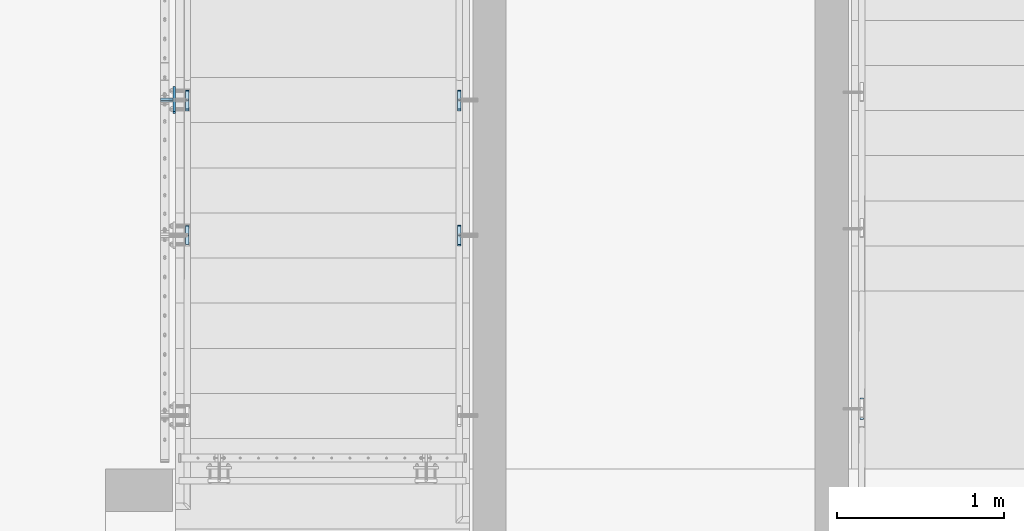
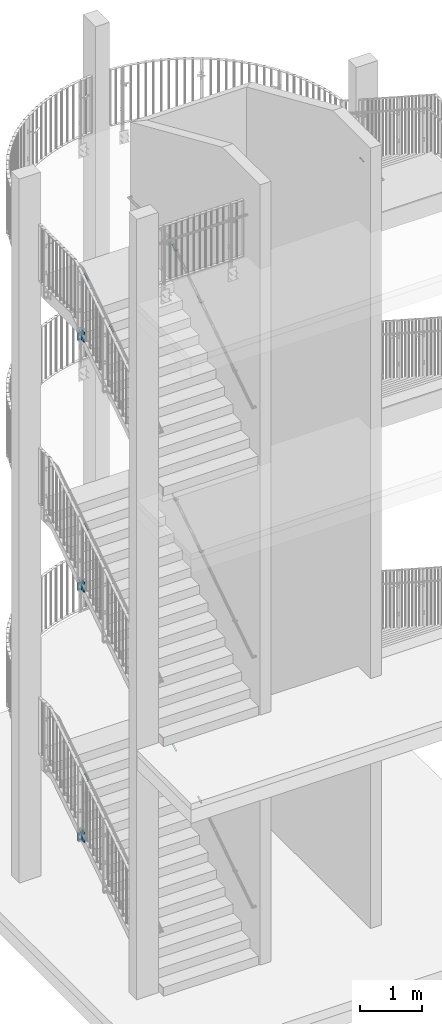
# One storey, part 109 of 296: 17 plates, 29 openings.
"""IFC2X3 building model written with IfcOpenShell, lengths in millimetres."""

from ifc_helpers import new_model, entity, si_unit, converted_unit, frame, frame_2d, origin, origin_with_axes, origin_2d_with_axis, place, context, project, spatial, polyline, circle, outline, extrude, material, layer, layer_set, element, save


model = new_model("IFC2X3")

# Units and contexts
model_context = context("Model", 3, precision=1e-09, world=origin_with_axes())
ifc_project = project(units=[si_unit("LENGTHUNIT", "METRE", prefix="MILLI"), si_unit("AREAUNIT", "SQUARE_METRE"), si_unit("VOLUMEUNIT", "CUBIC_METRE"), converted_unit("PLANEANGLEUNIT", "DEGREE", entity("IfcPlaneAngleMeasure", 0.01745329), si_unit("PLANEANGLEUNIT", "RADIAN"), dimensions=[0, 0, 0, 0, 0, 0, 0])], contexts=[model_context])

# Site, building, storey
site_placement = place(None, origin_with_axes())
site = spatial("IfcSite", under=ifc_project, at=site_placement, Name="TZD-S?d | Treppenhausgel?nder", CompositionType="ELEMENT")
building_placement = place(site_placement, origin_with_axes())
building = spatial("IfcBuilding", under=site, at=building_placement, Name="Struktur 1", CompositionType="ELEMENT")
storey_placement = place(building_placement, origin_with_axes())
storey = spatial("IfcBuildingStorey", under=building, at=storey_placement, Name="Default Storey", CompositionType="ELEMENT", Elevation=0.0)

# Plate, opening
ifc_material = material(Name="S235JR")
ifc_layer_1 = layer(ifc_material, 10.0)
ifc_layer_set_1 = layer_set([ifc_layer_1], Name="S235JR")
plate_1_placement = place(None, frame((1720.0, -2370.0, 7086.10126979), z_axis=(0.0, 0.542183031, -0.840260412), x_axis=(0.0, -0.840260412, -0.542183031)))
plate_1 = element("IfcPlate", 1, at=plate_1_placement, inside=storey, material=ifc_layer_set_1, Name="Girder", ObjectType="Girder", context=model_context, shape_type="SweptSolid", body=[
    extrude(outline(polyline([(-65.0, -10.0), (65.0, -10.0), (65.0, 10.0), (-65.0, 10.0), (-65.0, -10.0)])), origin_with_axes(), (0.0, 0.0, -1.0), 10.0),
])
opening_1_placement = place(plate_1_placement, frame((1.5e-08, -5.001000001, 0.499999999), z_axis=(0.0, 0.0, 1.0), x_axis=(1.0, 0.0, 0.0)))
element("IfcOpeningElement", 2, at=opening_1_placement, cuts=plate_1, ObjectType="Opening", context=model_context, shape_type="SweptSolid", body=[
    extrude(circle(Radius=5.001, at=frame_2d((0.0, 5.001), x_axis=(1.0, 0.0))), origin(), (0.0, 0.0, -1.0), 11.0),
])

plate_2_placement = place(None, frame((1720.0, -1560.0, 7608.75859016), z_axis=(0.0, 0.542183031, -0.840260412), x_axis=(0.0, -0.840260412, -0.542183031)))
plate_2 = element("IfcPlate", 3, at=plate_2_placement, inside=storey, material=ifc_layer_set_1, Name="Girder", ObjectType="Girder", context=model_context, shape_type="SweptSolid", body=[
    extrude(outline(polyline([(-65.0, -10.0), (65.0, -10.0), (65.0, 10.0), (-65.0, 10.0), (-65.0, -10.0)])), origin_with_axes(), (0.0, 0.0, -1.0), 10.0),
])
opening_2_placement = place(plate_2_placement, frame((6e-09, -5.001, 0.499999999), z_axis=(0.0, 0.0, 1.0), x_axis=(1.0, 0.0, 0.0)))
element("IfcOpeningElement", 4, at=opening_2_placement, cuts=plate_2, ObjectType="Opening", context=model_context, shape_type="SweptSolid", body=[
    extrude(circle(Radius=5.001, at=frame_2d((0.0, 5.001), x_axis=(1.0, 0.0))), origin(), (0.0, 0.0, -1.0), 11.0),
])

plate_3_placement = place(None, frame((1720.0, -2380.0, 2183.202427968), z_axis=(0.0, 0.544258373, -0.83891765), x_axis=(0.0, -0.83891765, -0.544258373)))
plate_3 = element("IfcPlate", 5, at=plate_3_placement, inside=storey, material=ifc_layer_set_1, Name="Girder", ObjectType="Girder", context=model_context, shape_type="SweptSolid", body=[
    extrude(outline(polyline([(-65.0, -10.0), (65.0, -10.0), (65.0, 10.0), (-65.0, 10.0), (-65.0, -10.0)])), origin_with_axes(), (0.0, 0.0, -1.0), 10.0),
])
opening_3_placement = place(plate_3_placement, frame((1e-09, -5.001, 0.5), z_axis=(0.0, 0.0, 1.0), x_axis=(1.0, 0.0, 0.0)))
element("IfcOpeningElement", 6, at=opening_3_placement, cuts=plate_3, ObjectType="Opening", context=model_context, shape_type="SweptSolid", body=[
    extrude(circle(Radius=5.001, at=frame_2d((0.0, 5.001), x_axis=(1.0, 0.0))), origin(), (0.0, 0.0, -1.0), 11.0),
])

plate_4_placement = place(None, frame((1720.0, -1570.0, 2708.700112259), z_axis=(0.0, 0.544258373, -0.83891765), x_axis=(0.0, -0.83891765, -0.544258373)))
plate_4 = element("IfcPlate", 7, at=plate_4_placement, inside=storey, material=ifc_layer_set_1, Name="Girder", ObjectType="Girder", context=model_context, shape_type="SweptSolid", body=[
    extrude(outline(polyline([(-65.0, -10.0), (65.0, -10.0), (65.0, 10.0), (-65.0, 10.0), (-65.0, -10.0)])), origin_with_axes(), (0.0, 0.0, -1.0), 10.0),
])
opening_4_placement = place(plate_4_placement, frame((0.0, -5.001, 0.499999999), z_axis=(0.0, 0.0, 1.0), x_axis=(1.0, 0.0, 0.0)))
element("IfcOpeningElement", 8, at=opening_4_placement, cuts=plate_4, ObjectType="Opening", context=model_context, shape_type="SweptSolid", body=[
    extrude(circle(Radius=5.001, at=frame_2d((0.0, 5.001), x_axis=(1.0, 0.0))), origin(), (0.0, 0.0, -1.0), 11.0),
])

plate_5_placement = place(None, frame((1720.0, -2370.0, 11980.404625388), z_axis=(0.0, 0.543478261, -0.839423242), x_axis=(0.0, -0.839423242, -0.543478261)))
plate_5 = element("IfcPlate", 9, at=plate_5_placement, inside=storey, material=ifc_layer_set_1, Name="Girder", ObjectType="Girder", context=model_context, shape_type="SweptSolid", body=[
    extrude(outline(polyline([(-65.0, -10.0), (65.0, -10.0), (65.0, 10.0), (-65.0, 10.0), (-65.0, -10.0)])), origin_with_axes(), (0.0, 0.0, -1.0), 10.0),
])
opening_5_placement = place(plate_5_placement, frame((-1.01e-07, -5.000999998, 0.500000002), z_axis=(0.0, 0.0, 1.0), x_axis=(1.0, 0.0, 0.0)))
element("IfcOpeningElement", 10, at=opening_5_placement, cuts=plate_5, ObjectType="Opening", context=model_context, shape_type="SweptSolid", body=[
    extrude(circle(Radius=5.001, at=frame_2d((0.0, 5.001), x_axis=(1.0, 0.0))), origin(), (0.0, 0.0, -1.0), 11.0),
])

plate_6_placement = place(None, frame((1720.0, -1560.0, 12504.833029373), z_axis=(0.0, 0.543478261, -0.839423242), x_axis=(0.0, -0.839423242, -0.543478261)))
plate_6 = element("IfcPlate", 11, at=plate_6_placement, inside=storey, material=ifc_layer_set_1, Name="Girder", ObjectType="Girder", context=model_context, shape_type="SweptSolid", body=[
    extrude(outline(polyline([(-65.0, -10.0), (65.0, -10.0), (65.0, 10.0), (-65.0, 10.0), (-65.0, -10.0)])), origin_with_axes(), (0.0, 0.0, -1.0), 10.0),
])
opening_6_placement = place(plate_6_placement, frame((-6.8e-08, -5.000999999, 0.500000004), z_axis=(0.0, 0.0, 1.0), x_axis=(1.0, 0.0, 0.0)))
element("IfcOpeningElement", 12, at=opening_6_placement, cuts=plate_6, ObjectType="Opening", context=model_context, shape_type="SweptSolid", body=[
    extrude(circle(Radius=5.001, at=frame_2d((0.0, 5.001), x_axis=(1.0, 0.0))), origin(), (0.0, 0.0, -1.0), 11.0),
])

plate_7_placement = place(None, frame((4129.999, -3415.0, 14510.0), z_axis=(0.0, 0.0, 1.0), x_axis=(0.0, -1.0, 0.0)))
plate_7 = element("IfcPlate", 13, at=plate_7_placement, inside=storey, material=ifc_layer_set_1, Name="Girder", ObjectType="Girder", context=model_context, shape_type="SweptSolid", body=[
    extrude(outline(polyline([(-65.0, -10.0), (65.0, -10.0), (65.0, 10.0), (-65.0, 10.0), (-65.0, -10.0)])), origin_with_axes(), (0.0, 0.0, 1.0), 10.0),
])
opening_7_placement = place(plate_7_placement, frame((-5.605e-06, 5.001009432, -0.5), z_axis=(0.0, 0.0, -1.0), x_axis=(-1.0, 0.0, 0.0)))
element("IfcOpeningElement", 14, at=opening_7_placement, cuts=plate_7, ObjectType="Opening", context=model_context, shape_type="SweptSolid", body=[
    extrude(circle(Radius=5.001, at=frame_2d((0.0, -5.001), x_axis=(1.0, 0.0))), origin(), (0.0, 0.0, -1.0), 11.0),
])

# Plate, openings
ifc_layer_2 = layer(ifc_material, 15.0)
ifc_layer_set_2 = layer_set([ifc_layer_2], Name="S235JR")
plate_8_placement = place(None, frame((20.0, -1560.0, 11389.999), z_axis=(-1.0, 0.0, 0.0), x_axis=(0.0, -1.0, 0.0)))
plate_8 = element("IfcPlate", 15, at=plate_8_placement, inside=storey, material=ifc_layer_set_2, Name="Girder", ObjectType="Girder", context=model_context, shape_type="SweptSolid", body=[
    extrude(outline(polyline([(-75.0, -100.0), (75.0, -100.0), (75.0, 100.0), (-75.0, 100.0), (-75.0, -100.0)])), origin_with_axes(), (0.0, 0.0, 1.0), 15.0),
])
opening_8_placement = place(plate_8_placement, frame((0.0, 0.0, -0.5), z_axis=(0.0, 0.0, 1.0), x_axis=(1.0, 0.0, 0.0)))
element("IfcOpeningElement", 16, at=opening_8_placement, cuts=plate_8, ObjectType="Opening", context=model_context, shape_type="SweptSolid", body=[
    extrude(circle(Radius=7.001, at=frame_2d((55.0, 55.0), x_axis=(1.0, 0.0))), origin(), (0.0, 0.0, 1.0), 16.0),
])
opening_9_placement = place(plate_8_placement, frame((0.0, 0.0, -0.5), z_axis=(0.0, 0.0, 1.0), x_axis=(1.0, 0.0, 0.0)))
element("IfcOpeningElement", 17, at=opening_9_placement, cuts=plate_8, ObjectType="Opening", context=model_context, shape_type="SweptSolid", body=[
    extrude(circle(Radius=7.001, at=frame_2d((-55.0, 55.0), x_axis=(1.0, 0.0))), origin(), (0.0, 0.0, 1.0), 16.0),
])
opening_10_placement = place(plate_8_placement, frame((0.0, 0.0, -0.5), z_axis=(0.0, 0.0, 1.0), x_axis=(1.0, 0.0, 0.0)))
element("IfcOpeningElement", 18, at=opening_10_placement, cuts=plate_8, ObjectType="Opening", context=model_context, shape_type="SweptSolid", body=[
    extrude(circle(Radius=7.001, at=frame_2d((55.0, -55.0), x_axis=(1.0, 0.0))), origin(), (0.0, 0.0, 1.0), 16.0),
])
opening_11_placement = place(plate_8_placement, frame((0.0, 0.0, -0.5), z_axis=(0.0, 0.0, 1.0), x_axis=(1.0, 0.0, 0.0)))
element("IfcOpeningElement", 19, at=opening_11_placement, cuts=plate_8, ObjectType="Opening", context=model_context, shape_type="SweptSolid", body=[
    extrude(circle(Radius=7.001, at=frame_2d((-55.0, -55.0), x_axis=(1.0, 0.0))), origin(), (0.0, 0.0, 1.0), 16.0),
])

plate_9_placement = place(None, frame((-32.5, -1552.5, 11389.999), z_axis=(0.0, -1.0, 0.0), x_axis=(1.0, 0.0, 0.0)))
plate_9 = element("IfcPlate", 20, at=plate_9_placement, inside=storey, material=ifc_layer_set_2, Name="Girder", ObjectType="Girder", context=model_context, shape_type="SweptSolid", body=[
    extrude(outline(polyline([(-37.5, -75.0), (37.5, -75.0), (37.5, 75.0), (-37.5, 75.0), (-37.5, -75.0)])), origin_with_axes(), (0.0, 0.0, 1.0), 15.0),
])
opening_12_placement = place(plate_9_placement, frame((-12.5, 0.0, -0.5), z_axis=(0.0, 0.0, 1.0), x_axis=(1.0, 0.0, 0.0)))
element("IfcOpeningElement", 21, at=opening_12_placement, cuts=plate_9, ObjectType="Opening", context=model_context, shape_type="SweptSolid", body=[
    extrude(circle(Radius=7.001, at=frame_2d((0.0, 50.0), x_axis=(1.0, 0.0))), origin(), (0.0, 0.0, 1.0), 16.0),
])
opening_13_placement = place(plate_9_placement, frame((-12.5, 0.0, -0.5), z_axis=(0.0, 0.0, 1.0), x_axis=(1.0, 0.0, 0.0)))
element("IfcOpeningElement", 22, at=opening_13_placement, cuts=plate_9, ObjectType="Opening", context=model_context, shape_type="SweptSolid", body=[
    extrude(circle(Radius=7.001, at=frame_2d((0.0, -50.0), x_axis=(1.0, 0.0))), origin(), (0.0, 0.0, 1.0), 16.0),
])

# Plate, opening
plate_10_placement = place(None, frame((90.0, -1560.0, 12504.833029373), z_axis=(0.0, -0.543478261, 0.839423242), x_axis=(0.0, -0.839423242, -0.543478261)))
plate_10 = element("IfcPlate", 23, at=plate_10_placement, inside=storey, material=ifc_layer_set_1, Name="Girder", ObjectType="Girder", context=model_context, shape_type="SweptSolid", body=[
    extrude(outline(polyline([(-65.0, -10.0), (65.0, -10.0), (65.0, 10.0), (-65.0, 10.0), (-65.0, -10.0)])), origin_with_axes(), (0.0, 0.0, 1.0), 10.0),
])
opening_14_placement = place(plate_10_placement, frame((-6.8e-08, 1e-09, -0.500000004), z_axis=(0.0, 0.0, 1.0), x_axis=(0.0, 1.0, 0.0)))
element("IfcOpeningElement", 24, at=opening_14_placement, cuts=plate_10, ObjectType="Opening", context=model_context, shape_type="SweptSolid", body=[
    extrude(circle(Radius=5.001, at=origin_2d_with_axis()), origin(), (0.0, 0.0, 1.0), 11.0),
])

# Plate, openings
plate_11_placement = place(None, frame((20.0, -1560.0, 6489.999), z_axis=(-1.0, 0.0, 0.0), x_axis=(0.0, -1.0, 0.0)))
plate_11 = element("IfcPlate", 25, at=plate_11_placement, inside=storey, material=ifc_layer_set_2, Name="Girder", ObjectType="Girder", context=model_context, shape_type="SweptSolid", body=[
    extrude(outline(polyline([(-75.0, -100.0), (75.0, -100.0), (75.0, 100.0), (-75.0, 100.0), (-75.0, -100.0)])), origin_with_axes(), (0.0, 0.0, 1.0), 15.0),
])
opening_15_placement = place(plate_11_placement, frame((0.0, 0.0, -0.5), z_axis=(0.0, 0.0, 1.0), x_axis=(1.0, 0.0, 0.0)))
element("IfcOpeningElement", 26, at=opening_15_placement, cuts=plate_11, ObjectType="Opening", context=model_context, shape_type="SweptSolid", body=[
    extrude(circle(Radius=7.001, at=frame_2d((55.0, 55.0), x_axis=(1.0, 0.0))), origin(), (0.0, 0.0, 1.0), 16.0),
])
opening_16_placement = place(plate_11_placement, frame((0.0, 0.0, -0.5), z_axis=(0.0, 0.0, 1.0), x_axis=(1.0, 0.0, 0.0)))
element("IfcOpeningElement", 27, at=opening_16_placement, cuts=plate_11, ObjectType="Opening", context=model_context, shape_type="SweptSolid", body=[
    extrude(circle(Radius=7.001, at=frame_2d((-55.0, 55.0), x_axis=(1.0, 0.0))), origin(), (0.0, 0.0, 1.0), 16.0),
])
opening_17_placement = place(plate_11_placement, frame((0.0, 0.0, -0.5), z_axis=(0.0, 0.0, 1.0), x_axis=(1.0, 0.0, 0.0)))
element("IfcOpeningElement", 28, at=opening_17_placement, cuts=plate_11, ObjectType="Opening", context=model_context, shape_type="SweptSolid", body=[
    extrude(circle(Radius=7.001, at=frame_2d((55.0, -55.0), x_axis=(1.0, 0.0))), origin(), (0.0, 0.0, 1.0), 16.0),
])
opening_18_placement = place(plate_11_placement, frame((0.0, 0.0, -0.5), z_axis=(0.0, 0.0, 1.0), x_axis=(1.0, 0.0, 0.0)))
element("IfcOpeningElement", 29, at=opening_18_placement, cuts=plate_11, ObjectType="Opening", context=model_context, shape_type="SweptSolid", body=[
    extrude(circle(Radius=7.001, at=frame_2d((-55.0, -55.0), x_axis=(1.0, 0.0))), origin(), (0.0, 0.0, 1.0), 16.0),
])

plate_12_placement = place(None, frame((-32.5, -1552.5, 6489.999), z_axis=(0.0, -1.0, 0.0), x_axis=(1.0, 0.0, 0.0)))
plate_12 = element("IfcPlate", 30, at=plate_12_placement, inside=storey, material=ifc_layer_set_2, Name="Girder", ObjectType="Girder", context=model_context, shape_type="SweptSolid", body=[
    extrude(outline(polyline([(-37.5, -75.0), (37.5, -75.0), (37.5, 75.0), (-37.5, 75.0), (-37.5, -75.0)])), origin_with_axes(), (0.0, 0.0, 1.0), 15.0),
])
opening_19_placement = place(plate_12_placement, frame((-12.5, 0.0, -0.5), z_axis=(0.0, 0.0, 1.0), x_axis=(1.0, 0.0, 0.0)))
element("IfcOpeningElement", 31, at=opening_19_placement, cuts=plate_12, ObjectType="Opening", context=model_context, shape_type="SweptSolid", body=[
    extrude(circle(Radius=7.001, at=frame_2d((0.0, 50.0), x_axis=(1.0, 0.0))), origin(), (0.0, 0.0, 1.0), 16.0),
])
opening_20_placement = place(plate_12_placement, frame((-12.5, 0.0, -0.5), z_axis=(0.0, 0.0, 1.0), x_axis=(1.0, 0.0, 0.0)))
element("IfcOpeningElement", 32, at=opening_20_placement, cuts=plate_12, ObjectType="Opening", context=model_context, shape_type="SweptSolid", body=[
    extrude(circle(Radius=7.001, at=frame_2d((0.0, -50.0), x_axis=(1.0, 0.0))), origin(), (0.0, 0.0, 1.0), 16.0),
])

# Plate, opening
plate_13_placement = place(None, frame((90.0, -1560.0, 7608.75859016), z_axis=(0.0, -0.542183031, 0.840260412), x_axis=(0.0, -0.840260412, -0.542183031)))
plate_13 = element("IfcPlate", 33, at=plate_13_placement, inside=storey, material=ifc_layer_set_1, Name="Girder", ObjectType="Girder", context=model_context, shape_type="SweptSolid", body=[
    extrude(outline(polyline([(-65.0, -10.0), (65.0, -10.0), (65.0, 10.0), (-65.0, 10.0), (-65.0, -10.0)])), origin_with_axes(), (0.0, 0.0, 1.0), 10.0),
])
opening_21_placement = place(plate_13_placement, frame((6e-09, 0.0, -0.499999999), z_axis=(0.0, 0.0, 1.0), x_axis=(0.0, 1.0, 0.0)))
element("IfcOpeningElement", 34, at=opening_21_placement, cuts=plate_13, ObjectType="Opening", context=model_context, shape_type="SweptSolid", body=[
    extrude(circle(Radius=5.001, at=origin_2d_with_axis()), origin(), (0.0, 0.0, 1.0), 11.0),
])

# Plate, openings
plate_14_placement = place(None, frame((20.0, -1570.0, 1589.999), z_axis=(-1.0, 0.0, 0.0), x_axis=(0.0, -1.0, 0.0)))
plate_14 = element("IfcPlate", 35, at=plate_14_placement, inside=storey, material=ifc_layer_set_2, Name="Girder", ObjectType="Girder", context=model_context, shape_type="SweptSolid", body=[
    extrude(outline(polyline([(-75.0, -100.0), (75.0, -100.0), (75.0, 100.0), (-75.0, 100.0), (-75.0, -100.0)])), origin_with_axes(), (0.0, 0.0, 1.0), 15.0),
])
opening_22_placement = place(plate_14_placement, frame((0.0, 0.0, -0.5), z_axis=(0.0, 0.0, 1.0), x_axis=(1.0, 0.0, 0.0)))
element("IfcOpeningElement", 36, at=opening_22_placement, cuts=plate_14, ObjectType="Opening", context=model_context, shape_type="SweptSolid", body=[
    extrude(circle(Radius=7.001, at=frame_2d((55.0, 55.0), x_axis=(1.0, 0.0))), origin(), (0.0, 0.0, 1.0), 16.0),
])
opening_23_placement = place(plate_14_placement, frame((0.0, 0.0, -0.5), z_axis=(0.0, 0.0, 1.0), x_axis=(1.0, 0.0, 0.0)))
element("IfcOpeningElement", 37, at=opening_23_placement, cuts=plate_14, ObjectType="Opening", context=model_context, shape_type="SweptSolid", body=[
    extrude(circle(Radius=7.001, at=frame_2d((-55.0, 55.0), x_axis=(1.0, 0.0))), origin(), (0.0, 0.0, 1.0), 16.0),
])
opening_24_placement = place(plate_14_placement, frame((0.0, 0.0, -0.5), z_axis=(0.0, 0.0, 1.0), x_axis=(1.0, 0.0, 0.0)))
element("IfcOpeningElement", 38, at=opening_24_placement, cuts=plate_14, ObjectType="Opening", context=model_context, shape_type="SweptSolid", body=[
    extrude(circle(Radius=7.001, at=frame_2d((55.0, -55.0), x_axis=(1.0, 0.0))), origin(), (0.0, 0.0, 1.0), 16.0),
])
opening_25_placement = place(plate_14_placement, frame((0.0, 0.0, -0.5), z_axis=(0.0, 0.0, 1.0), x_axis=(1.0, 0.0, 0.0)))
element("IfcOpeningElement", 39, at=opening_25_placement, cuts=plate_14, ObjectType="Opening", context=model_context, shape_type="SweptSolid", body=[
    extrude(circle(Radius=7.001, at=frame_2d((-55.0, -55.0), x_axis=(1.0, 0.0))), origin(), (0.0, 0.0, 1.0), 16.0),
])

plate_15_placement = place(None, frame((-32.5, -1562.5, 1589.999), z_axis=(0.0, -1.0, 0.0), x_axis=(1.0, 0.0, 0.0)))
plate_15 = element("IfcPlate", 40, at=plate_15_placement, inside=storey, material=ifc_layer_set_2, Name="Girder", ObjectType="Girder", context=model_context, shape_type="SweptSolid", body=[
    extrude(outline(polyline([(-37.5, -75.0), (37.5, -75.0), (37.5, 75.0), (-37.5, 75.0), (-37.5, -75.0)])), origin_with_axes(), (0.0, 0.0, 1.0), 15.0),
])
opening_26_placement = place(plate_15_placement, frame((-12.5, 0.0, -0.5), z_axis=(0.0, 0.0, 1.0), x_axis=(1.0, 0.0, 0.0)))
element("IfcOpeningElement", 41, at=opening_26_placement, cuts=plate_15, ObjectType="Opening", context=model_context, shape_type="SweptSolid", body=[
    extrude(circle(Radius=7.001, at=frame_2d((0.0, 50.0), x_axis=(1.0, 0.0))), origin(), (0.0, 0.0, 1.0), 16.0),
])
opening_27_placement = place(plate_15_placement, frame((-12.5, 0.0, -0.5), z_axis=(0.0, 0.0, 1.0), x_axis=(1.0, 0.0, 0.0)))
element("IfcOpeningElement", 42, at=opening_27_placement, cuts=plate_15, ObjectType="Opening", context=model_context, shape_type="SweptSolid", body=[
    extrude(circle(Radius=7.001, at=frame_2d((0.0, -50.0), x_axis=(1.0, 0.0))), origin(), (0.0, 0.0, 1.0), 16.0),
])

# Plate, opening
plate_16_placement = place(None, frame((90.0, -1570.0, 2708.700112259), z_axis=(0.0, -0.544258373, 0.83891765), x_axis=(0.0, -0.83891765, -0.544258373)))
plate_16 = element("IfcPlate", 43, at=plate_16_placement, inside=storey, material=ifc_layer_set_1, Name="Girder", ObjectType="Girder", context=model_context, shape_type="SweptSolid", body=[
    extrude(outline(polyline([(-65.0, -10.0), (65.0, -10.0), (65.0, 10.0), (-65.0, 10.0), (-65.0, -10.0)])), origin_with_axes(), (0.0, 0.0, 1.0), 10.0),
])
opening_28_placement = place(plate_16_placement, frame((0.0, 0.0, -0.499999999), z_axis=(0.0, 0.0, 1.0), x_axis=(0.0, 1.0, 0.0)))
element("IfcOpeningElement", 44, at=opening_28_placement, cuts=plate_16, ObjectType="Opening", context=model_context, shape_type="SweptSolid", body=[
    extrude(circle(Radius=5.001, at=origin_2d_with_axis()), origin(), (0.0, 0.0, 1.0), 11.0),
])

plate_17_placement = place(None, frame((90.0, -2370.0, 11980.404625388), z_axis=(0.0, -0.543478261, 0.839423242), x_axis=(0.0, -0.839423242, -0.543478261)))
plate_17 = element("IfcPlate", 45, at=plate_17_placement, inside=storey, material=ifc_layer_set_1, Name="Girder", ObjectType="Girder", context=model_context, shape_type="SweptSolid", body=[
    extrude(outline(polyline([(-65.0, -10.0), (65.0, -10.0), (65.0, 10.0), (-65.0, 10.0), (-65.0, -10.0)])), origin_with_axes(), (0.0, 0.0, 1.0), 10.0),
])
opening_29_placement = place(plate_17_placement, frame((-1.01e-07, 2e-09, -0.500000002), z_axis=(0.0, 0.0, 1.0), x_axis=(0.0, 1.0, 0.0)))
element("IfcOpeningElement", 46, at=opening_29_placement, cuts=plate_17, ObjectType="Opening", context=model_context, shape_type="SweptSolid", body=[
    extrude(circle(Radius=5.001, at=origin_2d_with_axis()), origin(), (0.0, 0.0, 1.0), 11.0),
])

save(model, "model.ifc")
